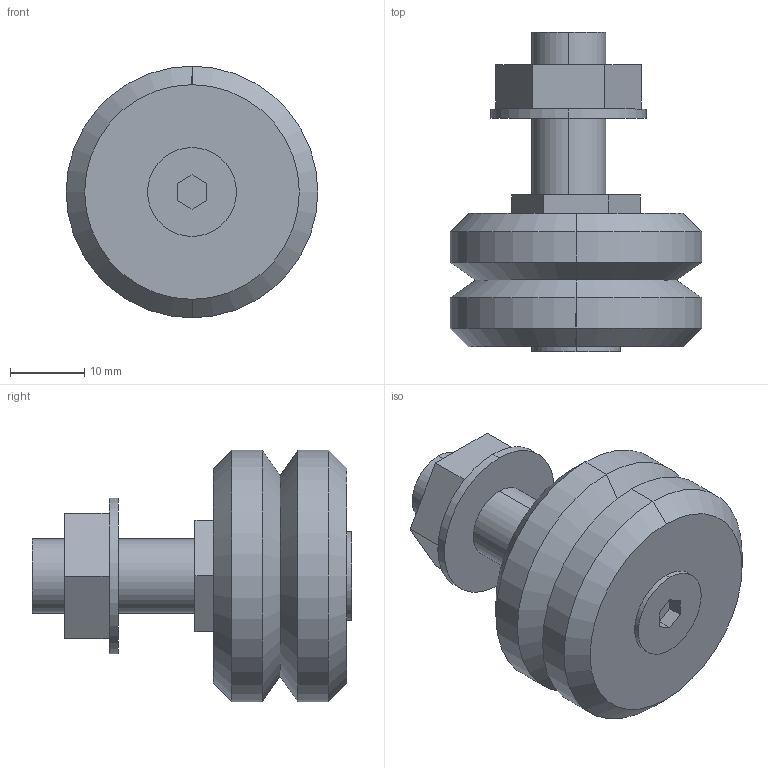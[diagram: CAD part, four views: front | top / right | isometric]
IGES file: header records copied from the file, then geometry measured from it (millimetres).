
Start section: 3D InterOp IGES (v. 2019 1.0.2), Spatial Corp. Copyright (c) 1999-2017.
Global section: file name: SS LJ34 E.igs; native system: Spatial Corp.; preprocessor: 3D InterOp GENERIC/IGES 3.0; author: Noname; organization: Noname; date: 20220628.114800; units: millimetre
Bounding box: 34 x 43.2 x 34 mm (x, y, z)
Surface area: 5361.3 mm2 (no closed solid volume)
Topology: 0 solids, 0 shells, 54 faces, 244 edges, 244 vertices
Faces by surface type: extrusion 34, revolution 20
